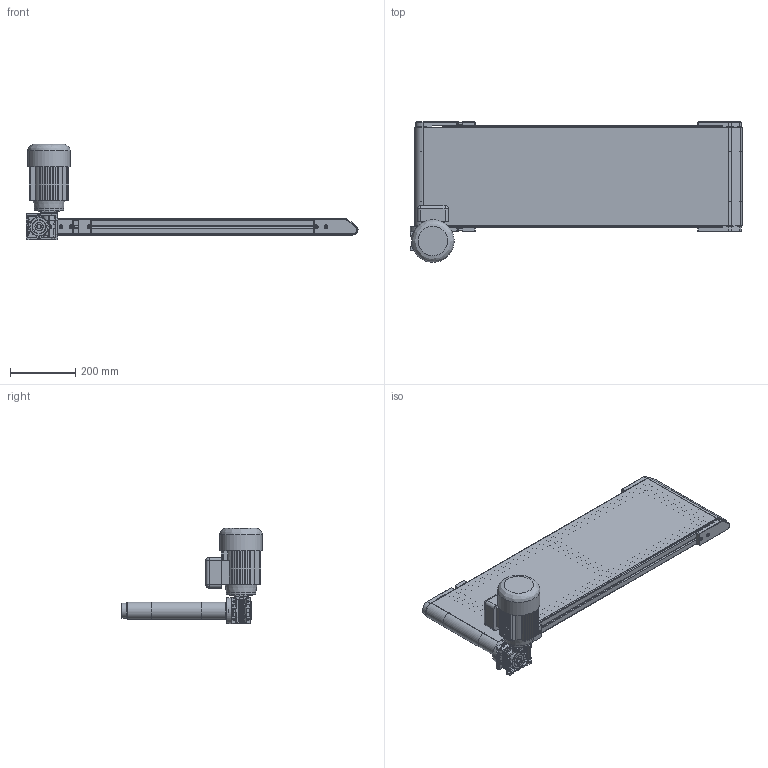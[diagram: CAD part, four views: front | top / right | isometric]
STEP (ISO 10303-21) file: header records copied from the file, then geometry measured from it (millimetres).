
FILE_DESCRIPTION (( 'STEP AP214' ), '1' );
FILE_NAME ('TB52 300X1000 DIRECT A DROITE + COUTEAU D31.STEP', '2022-10-10T13:47:39', ( '' ), ( '' ), 'SwSTEP 2.0', 'SolidWorks 2022', '' );
FILE_SCHEMA (( 'AUTOMOTIVE_DESIGN' ));
Length unit declared in the file: millimetre
Products named in the file (25): 982-003; CHC THE_910-065H; 982-011; 982-025; CHASSIS TB52 COUTEAU D30_Défaut<Brut d''usinage>; 982-026; 982-012-180W; CHC THE_910-064H; TH_910-229; 910-010; 982-023_982-023-300; 982-024; 983-002; 983-001; 982-008; 983-015; 982-000; TH_910-167; 982-002; 982-016; CLAVETTE_910-165; TB52 300X1000 DIRECT A DROITE + COUTEAU D31; 982-001B_982-001B-300; 983-000; 980-000
Assembly tree (50 placements, depth 3):
  TB52 300X1000 DIRECT A DROITE + COUTEAU D31
    CHASSIS TB52 COUTEAU D30_Défaut<Brut d''usinage>
    983-000
      982-016
      980-000
      982-002
      CHC THE_910-065H  x2
      910-010  x2
      CLAVETTE_910-165
      CHC THE_910-064H  x3
    983-002  x2
      982-008
      TH_910-167
      CHC THE_910-065H
      910-010
    982-001B_982-001B-300
    983-001
      982-000
      982-003
      CHC THE_910-065H  x2
      910-010  x2
    982-011
    TH_910-229  x4
    982-012-180W
    983-015
      982-025
      CHC THE_910-065H  x4
      910-010  x4
      982-024
      982-026  x4
      982-023_982-023-300  x2
Bounding box: 1014.46 x 430 x 292 mm (x, y, z)
Volume: 8087604.1 mm3; surface area: 3173179.9 mm2
Topology: 55 solids, 60 shells, 2037 faces, 5046 edges, 3265 vertices
Faces by surface type: plane 1302, cylinder 346, cone 305, torus 79, bspline 5
Full cylindrical faces by diameter (mm): 3.242 x1, 4.2 x8, 5 x16, 5.98 x13, 6 x15, 6.5 x13, 7 x4, 7.3 x5, 8 x2, 9 x8, 10 x13, 11 x14, 14 x13, 15 x3, 16 x1, 19 x8, 20 x6, 21 x2, 24 x10, 25 x2, 26 x2, 29 x4, 30 x1, 31 x2, 35 x4, 36 x2, 37 x1, 42 x2, 45 x1, 49 x1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
Entity records: 46068 total; most frequent: CARTESIAN_POINT 9312, ORIENTED_EDGE 7082, DIRECTION 6855, EDGE_CURVE 3541, VECTOR 2465, LINE 2465, VERTEX_POINT 2419, AXIS2_PLACEMENT_3D 2195
